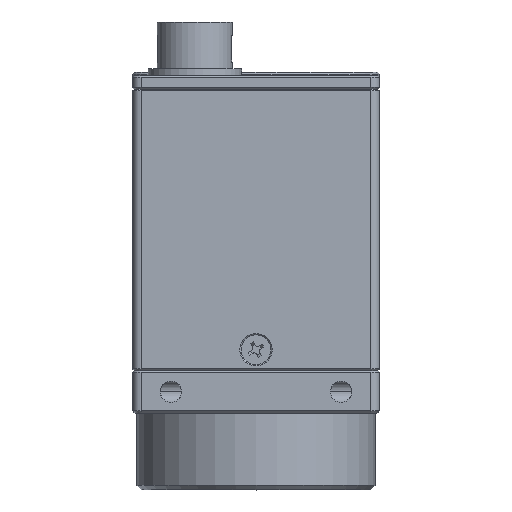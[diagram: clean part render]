
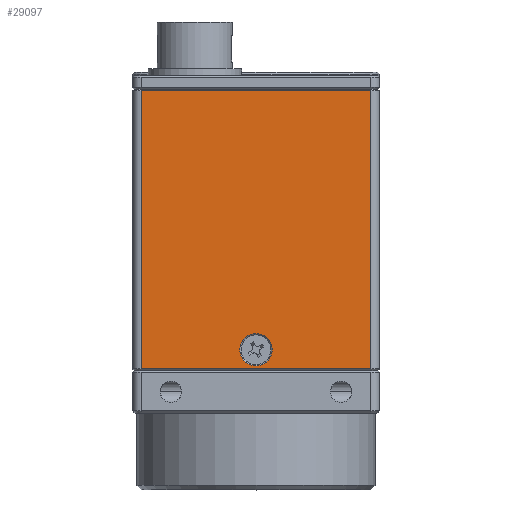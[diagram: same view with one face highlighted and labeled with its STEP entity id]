
A CAD part, top view. The second image highlights one B-rep face of the part: STEP entity #29097.
In plain terms, the highlighted planar face has unit normal (0, 0, 1).
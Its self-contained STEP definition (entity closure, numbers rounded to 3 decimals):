
#439 = VECTOR ( 'NONE', #32588, 1000. ) ;
#2226 = DIRECTION ( 'NONE',  ( 0., 0., 1. ) ) ;
#2583 = EDGE_LOOP ( 'NONE', ( #3032, #3733, #13461, #23177 ) ) ;
#2832 = CARTESIAN_POINT ( 'NONE',  ( 0., -2.55, 14.5 ) ) ;
#2968 = EDGE_CURVE ( 'NONE', #25367, #17431, #12089, .T. ) ;
#3032 = ORIENTED_EDGE ( 'NONE', *, *, #12638, .T. ) ;
#3733 = ORIENTED_EDGE ( 'NONE', *, *, #23505, .T. ) ;
#4474 = LINE ( 'NONE', #25500, #12582 ) ;
#5154 = VERTEX_POINT ( 'NONE', #16676 ) ;
#6691 = DIRECTION ( 'NONE',  ( 0., 0., 1. ) ) ;
#6722 = VERTEX_POINT ( 'NONE', #7939 ) ;
#7697 = CARTESIAN_POINT ( 'NONE',  ( 13.5, 28.1, 14.5 ) ) ;
#7939 = CARTESIAN_POINT ( 'NONE',  ( -13.5, 27.9, 14.5 ) ) ;
#8610 = DIRECTION ( 'NONE',  ( -1., 0., 0. ) ) ;
#8687 = EDGE_LOOP ( 'NONE', ( #12352, #40400 ) ) ;
#9162 = CARTESIAN_POINT ( 'NONE',  ( -14.5, 28.1, 14.5 ) ) ;
#9944 = CARTESIAN_POINT ( 'NONE',  ( -13.5, -4.8, 14.5 ) ) ;
#11121 = LINE ( 'NONE', #7697, #13836 ) ;
#11978 = AXIS2_PLACEMENT_3D ( 'NONE', #2832, #6691, #24541 ) ;
#12089 = CIRCLE ( 'NONE', #26686, 1.9 ) ;
#12352 = ORIENTED_EDGE ( 'NONE', *, *, #2968, .F. ) ;
#12582 = VECTOR ( 'NONE', #18425, 1000. ) ;
#12638 = EDGE_CURVE ( 'NONE', #6722, #32603, #36207, .T. ) ;
#12698 = CARTESIAN_POINT ( 'NONE',  ( -13.5, 28.1, 14.5 ) ) ;
#13461 = ORIENTED_EDGE ( 'NONE', *, *, #39920, .T. ) ;
#13836 = VECTOR ( 'NONE', #21649, 1000. ) ;
#15122 = FACE_BOUND ( 'NONE', #8687, .T. ) ;
#16005 = PLANE ( 'NONE',  #44134 ) ;
#16676 = CARTESIAN_POINT ( 'NONE',  ( 13.5, -4.8, 14.5 ) ) ;
#17431 = VERTEX_POINT ( 'NONE', #19248 ) ;
#18216 = LINE ( 'NONE', #25720, #44823 ) ;
#18425 = DIRECTION ( 'NONE',  ( 1., 0., 0. ) ) ;
#19248 = CARTESIAN_POINT ( 'NONE',  ( -1.9, -2.55, 14.5 ) ) ;
#21377 = VERTEX_POINT ( 'NONE', #24906 ) ;
#21649 = DIRECTION ( 'NONE',  ( 0., 1., 0. ) ) ;
#22644 = CARTESIAN_POINT ( 'NONE',  ( 1.9, -2.55, 14.5 ) ) ;
#22645 = DIRECTION ( 'NONE',  ( 0., 0., -1. ) ) ;
#23029 = DIRECTION ( 'NONE',  ( 1., 0., 0. ) ) ;
#23177 = ORIENTED_EDGE ( 'NONE', *, *, #28346, .T. ) ;
#23505 = EDGE_CURVE ( 'NONE', #32603, #5154, #4474, .T. ) ;
#24541 = DIRECTION ( 'NONE',  ( 1., 0., 0. ) ) ;
#24906 = CARTESIAN_POINT ( 'NONE',  ( 13.5, 27.9, 14.5 ) ) ;
#25367 = VERTEX_POINT ( 'NONE', #22644 ) ;
#25500 = CARTESIAN_POINT ( 'NONE',  ( -14.5, -4.8, 14.5 ) ) ;
#25720 = CARTESIAN_POINT ( 'NONE',  ( -13.5, 27.9, 14.5 ) ) ;
#26070 = DIRECTION ( 'NONE',  ( -1., 0., 0. ) ) ;
#26686 = AXIS2_PLACEMENT_3D ( 'NONE', #26899, #2226, #23029 ) ;
#26899 = CARTESIAN_POINT ( 'NONE',  ( 0., -2.55, 14.5 ) ) ;
#28346 = EDGE_CURVE ( 'NONE', #21377, #6722, #18216, .T. ) ;
#29097 = ADVANCED_FACE ( 'NONE', ( #15122, #42898 ), #16005, .F. ) ;
#29933 = EDGE_CURVE ( 'NONE', #17431, #25367, #32406, .T. ) ;
#32406 = CIRCLE ( 'NONE', #11978, 1.9 ) ;
#32588 = DIRECTION ( 'NONE',  ( 0., -1., 0. ) ) ;
#32603 = VERTEX_POINT ( 'NONE', #9944 ) ;
#36207 = LINE ( 'NONE', #12698, #439 ) ;
#39920 = EDGE_CURVE ( 'NONE', #5154, #21377, #11121, .T. ) ;
#40400 = ORIENTED_EDGE ( 'NONE', *, *, #29933, .F. ) ;
#42898 = FACE_OUTER_BOUND ( 'NONE', #2583, .T. ) ;
#44134 = AXIS2_PLACEMENT_3D ( 'NONE', #9162, #22645, #26070 ) ;
#44823 = VECTOR ( 'NONE', #8610, 1000. ) ;
